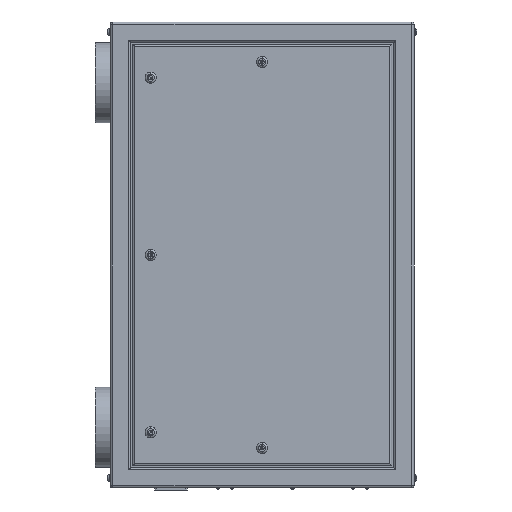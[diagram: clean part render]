
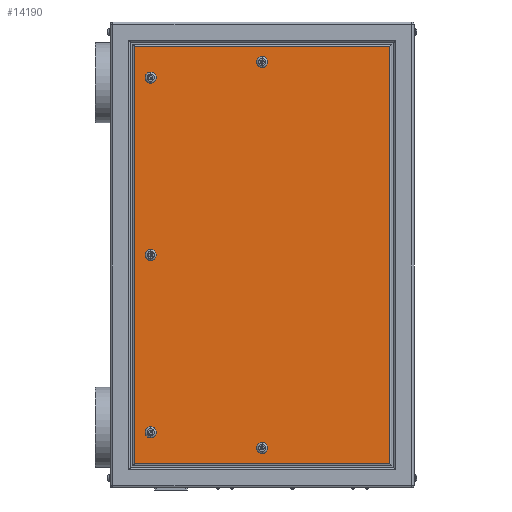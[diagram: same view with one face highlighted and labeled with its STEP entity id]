
A CAD part, left-side view. The second image highlights one B-rep face of the part: STEP entity #14190.
In plain terms, the highlighted planar face has unit normal (-1, 0, 0).
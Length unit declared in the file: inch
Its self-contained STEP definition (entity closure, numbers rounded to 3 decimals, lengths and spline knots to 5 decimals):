
#66 = CIRCLE ( 'NONE', #15587, 0.55 ) ;
#126 = CIRCLE ( 'NONE', #3479, 0.55 ) ;
#202 = DIRECTION ( 'NONE',  ( 0., 0., 1. ) ) ;
#239 = DIRECTION ( 'NONE',  ( 0., 1., 0. ) ) ;
#463 = EDGE_LOOP ( 'NONE', ( #5563, #15690 ) ) ;
#616 = DIRECTION ( 'NONE',  ( -1., 0., 0. ) ) ;
#635 = AXIS2_PLACEMENT_3D ( 'NONE', #705, #4996, #17073 ) ;
#705 = CARTESIAN_POINT ( 'NONE',  ( -11., 11., -17.5 ) ) ;
#713 = CARTESIAN_POINT ( 'NONE',  ( -11., 11., 17.5 ) ) ;
#833 = CARTESIAN_POINT ( 'NONE',  ( -11., 11., -16.95 ) ) ;
#862 = ORIENTED_EDGE ( 'NONE', *, *, #6405, .T. ) ;
#930 = FACE_BOUND ( 'NONE', #9863, .T. ) ;
#974 = VERTEX_POINT ( 'NONE', #3039 ) ;
#985 = CIRCLE ( 'NONE', #13113, 0.55 ) ;
#986 = DIRECTION ( 'NONE',  ( 0., 0., -1. ) ) ;
#1152 = ORIENTED_EDGE ( 'NONE', *, *, #13239, .F. ) ;
#1235 = ORIENTED_EDGE ( 'NONE', *, *, #6823, .T. ) ;
#1446 = EDGE_CURVE ( 'NONE', #10679, #7597, #5267, .T. ) ;
#1540 = ORIENTED_EDGE ( 'NONE', *, *, #17023, .T. ) ;
#1701 = DIRECTION ( 'NONE',  ( 1., 0., 0. ) ) ;
#2158 = PLANE ( 'NONE',  #15447 ) ;
#2399 = CARTESIAN_POINT ( 'NONE',  ( -11., 11., -17.5 ) ) ;
#2484 = LINE ( 'NONE', #13626, #5421 ) ;
#2542 = DIRECTION ( 'NONE',  ( 0., 0., -1. ) ) ;
#2575 = CARTESIAN_POINT ( 'NONE',  ( -11., 12.6, 20.6 ) ) ;
#2609 = DIRECTION ( 'NONE',  ( 0., 0., -1. ) ) ;
#2883 = CARTESIAN_POINT ( 'NONE',  ( -11., 0., 18.5 ) ) ;
#3023 = AXIS2_PLACEMENT_3D ( 'NONE', #5033, #7505, #12832 ) ;
#3034 = ORIENTED_EDGE ( 'NONE', *, *, #7699, .T. ) ;
#3039 = CARTESIAN_POINT ( 'NONE',  ( -11., -12.6, -20.6 ) ) ;
#3331 = VERTEX_POINT ( 'NONE', #12283 ) ;
#3340 = CARTESIAN_POINT ( 'NONE',  ( -11., 12.6, -23. ) ) ;
#3479 = AXIS2_PLACEMENT_3D ( 'NONE', #4585, #9986, #15404 ) ;
#3559 = VECTOR ( 'NONE', #4560, 39.37008 ) ;
#3622 = DIRECTION ( 'NONE',  ( 1., 0., 0. ) ) ;
#3693 = EDGE_CURVE ( 'NONE', #5065, #8889, #7325, .T. ) ;
#3737 = FACE_BOUND ( 'NONE', #3769, .T. ) ;
#3769 = EDGE_LOOP ( 'NONE', ( #15498, #5962 ) ) ;
#3928 = VERTEX_POINT ( 'NONE', #2575 ) ;
#4343 = VECTOR ( 'NONE', #986, 39.37008 ) ;
#4485 = ORIENTED_EDGE ( 'NONE', *, *, #8600, .T. ) ;
#4560 = DIRECTION ( 'NONE',  ( 0., -1., 0. ) ) ;
#4585 = CARTESIAN_POINT ( 'NONE',  ( -11., 0., 19.05 ) ) ;
#4783 = FACE_BOUND ( 'NONE', #463, .T. ) ;
#4866 = CARTESIAN_POINT ( 'NONE',  ( -11., 0., -19.6 ) ) ;
#4996 = DIRECTION ( 'NONE',  ( 1., 0., 0. ) ) ;
#5033 = CARTESIAN_POINT ( 'NONE',  ( -11., 0., 19.05 ) ) ;
#5065 = VERTEX_POINT ( 'NONE', #12783 ) ;
#5137 = FACE_BOUND ( 'NONE', #17350, .T. ) ;
#5163 = VERTEX_POINT ( 'NONE', #8620 ) ;
#5210 = EDGE_CURVE ( 'NONE', #7537, #3928, #5785, .T. ) ;
#5267 = CIRCLE ( 'NONE', #3023, 0.55 ) ;
#5421 = VECTOR ( 'NONE', #202, 39.37008 ) ;
#5563 = ORIENTED_EDGE ( 'NONE', *, *, #6532, .F. ) ;
#5627 = CARTESIAN_POINT ( 'NONE',  ( -11., 11., 0. ) ) ;
#5681 = VECTOR ( 'NONE', #239, 39.37008 ) ;
#5785 = LINE ( 'NONE', #8344, #5681 ) ;
#5962 = ORIENTED_EDGE ( 'NONE', *, *, #9788, .T. ) ;
#5969 = CIRCLE ( 'NONE', #10221, 0.55 ) ;
#5970 = CIRCLE ( 'NONE', #635, 0.55 ) ;
#6008 = AXIS2_PLACEMENT_3D ( 'NONE', #713, #11830, #2542 ) ;
#6108 = DIRECTION ( 'NONE',  ( 0., 0., -1. ) ) ;
#6189 = FACE_OUTER_BOUND ( 'NONE', #15777, .T. ) ;
#6324 = AXIS2_PLACEMENT_3D ( 'NONE', #9576, #13667, #2609 ) ;
#6405 = EDGE_CURVE ( 'NONE', #3928, #12176, #14321, .T. ) ;
#6532 = EDGE_CURVE ( 'NONE', #7597, #10679, #126, .T. ) ;
#6823 = EDGE_CURVE ( 'NONE', #5163, #16152, #985, .T. ) ;
#7325 = CIRCLE ( 'NONE', #10176, 0.55 ) ;
#7376 = DIRECTION ( 'NONE',  ( 0., 0., -1. ) ) ;
#7505 = DIRECTION ( 'NONE',  ( -1., 0., 0. ) ) ;
#7516 = DIRECTION ( 'NONE',  ( 1., 0., 0. ) ) ;
#7537 = VERTEX_POINT ( 'NONE', #15481 ) ;
#7597 = VERTEX_POINT ( 'NONE', #17251 ) ;
#7699 = EDGE_CURVE ( 'NONE', #12176, #974, #10962, .T. ) ;
#8115 = DIRECTION ( 'NONE',  ( 0., 0., -1. ) ) ;
#8344 = CARTESIAN_POINT ( 'NONE',  ( -11., 15., 20.6 ) ) ;
#8600 = EDGE_CURVE ( 'NONE', #8889, #5065, #66, .T. ) ;
#8608 = CARTESIAN_POINT ( 'NONE',  ( -11., 11., 0. ) ) ;
#8620 = CARTESIAN_POINT ( 'NONE',  ( -11., 11., 16.95 ) ) ;
#8647 = CARTESIAN_POINT ( 'NONE',  ( -11., 11., 17.5 ) ) ;
#8889 = VERTEX_POINT ( 'NONE', #14729 ) ;
#9015 = DIRECTION ( 'NONE',  ( 0., 0., -1. ) ) ;
#9066 = ORIENTED_EDGE ( 'NONE', *, *, #3693, .T. ) ;
#9290 = VERTEX_POINT ( 'NONE', #13010 ) ;
#9306 = AXIS2_PLACEMENT_3D ( 'NONE', #9873, #616, #7376 ) ;
#9435 = EDGE_CURVE ( 'NONE', #15800, #3331, #16395, .T. ) ;
#9576 = CARTESIAN_POINT ( 'NONE',  ( -11., 0., -19.05 ) ) ;
#9788 = EDGE_CURVE ( 'NONE', #15759, #9290, #5970, .T. ) ;
#9863 = EDGE_LOOP ( 'NONE', ( #1152, #12846 ) ) ;
#9873 = CARTESIAN_POINT ( 'NONE',  ( -11., 0., -19.05 ) ) ;
#9986 = DIRECTION ( 'NONE',  ( -1., 0., 0. ) ) ;
#10060 = DIRECTION ( 'NONE',  ( 0., 0., -1. ) ) ;
#10176 = AXIS2_PLACEMENT_3D ( 'NONE', #8608, #1701, #6108 ) ;
#10194 = CARTESIAN_POINT ( 'NONE',  ( -11., 15., -23. ) ) ;
#10221 = AXIS2_PLACEMENT_3D ( 'NONE', #2399, #3622, #9015 ) ;
#10296 = FACE_BOUND ( 'NONE', #15899, .T. ) ;
#10679 = VERTEX_POINT ( 'NONE', #2883 ) ;
#10962 = LINE ( 'NONE', #13954, #3559 ) ;
#11586 = CARTESIAN_POINT ( 'NONE',  ( -11., 12.6, -20.6 ) ) ;
#11621 = EDGE_CURVE ( 'NONE', #16152, #5163, #16804, .T. ) ;
#11830 = DIRECTION ( 'NONE',  ( 1., 0., 0. ) ) ;
#12028 = CARTESIAN_POINT ( 'NONE',  ( -11., 11., 18.05 ) ) ;
#12176 = VERTEX_POINT ( 'NONE', #11586 ) ;
#12283 = CARTESIAN_POINT ( 'NONE',  ( -11., 0., -18.5 ) ) ;
#12783 = CARTESIAN_POINT ( 'NONE',  ( -11., 11., -0.55 ) ) ;
#12832 = DIRECTION ( 'NONE',  ( 0., 0., -1. ) ) ;
#12846 = ORIENTED_EDGE ( 'NONE', *, *, #9435, .F. ) ;
#12974 = ORIENTED_EDGE ( 'NONE', *, *, #5210, .T. ) ;
#13010 = CARTESIAN_POINT ( 'NONE',  ( -11., 11., -18.05 ) ) ;
#13113 = AXIS2_PLACEMENT_3D ( 'NONE', #8647, #15750, #10060 ) ;
#13217 = DIRECTION ( 'NONE',  ( 0., 0., -1. ) ) ;
#13239 = EDGE_CURVE ( 'NONE', #3331, #15800, #13689, .T. ) ;
#13626 = CARTESIAN_POINT ( 'NONE',  ( -11., -12.6, -23. ) ) ;
#13667 = DIRECTION ( 'NONE',  ( -1., 0., 0. ) ) ;
#13689 = CIRCLE ( 'NONE', #6324, 0.55 ) ;
#13954 = CARTESIAN_POINT ( 'NONE',  ( -11., 15., -20.6 ) ) ;
#14190 = ADVANCED_FACE ( 'NONE', ( #930, #4783, #3737, #10296, #5137, #6189 ), #2158, .F. ) ;
#14321 = LINE ( 'NONE', #3340, #4343 ) ;
#14729 = CARTESIAN_POINT ( 'NONE',  ( -11., 11., 0.55 ) ) ;
#15404 = DIRECTION ( 'NONE',  ( 0., 0., -1. ) ) ;
#15447 = AXIS2_PLACEMENT_3D ( 'NONE', #10194, #7516, #13217 ) ;
#15481 = CARTESIAN_POINT ( 'NONE',  ( -11., -12.6, 20.6 ) ) ;
#15498 = ORIENTED_EDGE ( 'NONE', *, *, #16864, .T. ) ;
#15587 = AXIS2_PLACEMENT_3D ( 'NONE', #5627, #16383, #8115 ) ;
#15690 = ORIENTED_EDGE ( 'NONE', *, *, #1446, .F. ) ;
#15750 = DIRECTION ( 'NONE',  ( 1., 0., 0. ) ) ;
#15759 = VERTEX_POINT ( 'NONE', #833 ) ;
#15777 = EDGE_LOOP ( 'NONE', ( #3034, #1540, #12974, #862 ) ) ;
#15800 = VERTEX_POINT ( 'NONE', #4866 ) ;
#15899 = EDGE_LOOP ( 'NONE', ( #9066, #4485 ) ) ;
#16152 = VERTEX_POINT ( 'NONE', #12028 ) ;
#16383 = DIRECTION ( 'NONE',  ( 1., 0., 0. ) ) ;
#16395 = CIRCLE ( 'NONE', #9306, 0.55 ) ;
#16410 = ORIENTED_EDGE ( 'NONE', *, *, #11621, .T. ) ;
#16804 = CIRCLE ( 'NONE', #6008, 0.55 ) ;
#16864 = EDGE_CURVE ( 'NONE', #9290, #15759, #5969, .T. ) ;
#17023 = EDGE_CURVE ( 'NONE', #974, #7537, #2484, .T. ) ;
#17073 = DIRECTION ( 'NONE',  ( 0., 0., -1. ) ) ;
#17251 = CARTESIAN_POINT ( 'NONE',  ( -11., 0., 19.6 ) ) ;
#17350 = EDGE_LOOP ( 'NONE', ( #1235, #16410 ) ) ;
